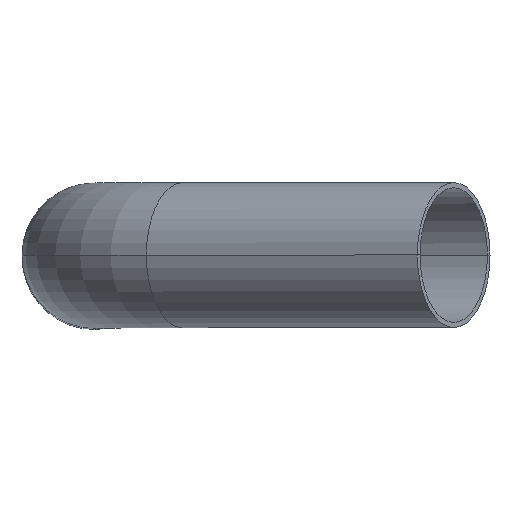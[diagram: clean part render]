
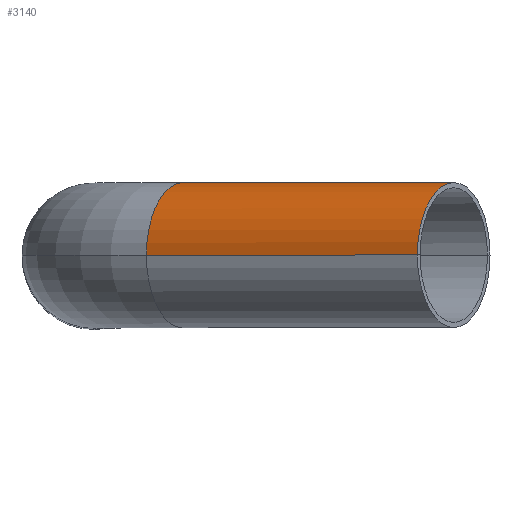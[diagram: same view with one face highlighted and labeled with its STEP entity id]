
A CAD part, top view. The second image highlights one B-rep face of the part: STEP entity #3140.
In plain terms, the highlighted cylindrical face has radius 21 mm (diameter 42 mm), a partial arc.
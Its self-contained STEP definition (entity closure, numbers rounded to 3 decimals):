
#1410=CARTESIAN_POINT('',(86.717,48.566,252.536));
#1420=VERTEX_POINT('',#1410);
#1510=CARTESIAN_POINT('',(65.717,48.566,288.909));
#1520=VERTEX_POINT('',#1510);
#1550=CARTESIAN_POINT('',(76.217,48.566,270.722));
#1560=DIRECTION('',(0.866,0.,0.5));
#1570=DIRECTION('',(0.5,0.,-0.866));
#1580=AXIS2_PLACEMENT_3D('',#1550,#1560,#1570);
#1590=CIRCLE('',#1580,21.);
#1670=EDGE_CURVE('',#1420,#1520,#1590,.T.);
#2400=CARTESIAN_POINT('',(154.64,48.566,316.));
#2410=DIRECTION('',(0.866,0.,0.5));
#2420=DIRECTION('',(0.5,0.,-0.866));
#2430=AXIS2_PLACEMENT_3D('',#2400,#2410,#2420);
#2440=CIRCLE('',#2430,21.);
#2450=CARTESIAN_POINT('',(165.14,48.566,297.813));
#2460=VERTEX_POINT('',#2450);
#2470=CARTESIAN_POINT('',(144.14,48.566,334.187));
#2480=VERTEX_POINT('',#2470);
#2490=EDGE_CURVE('',#2460,#2480,#2440,.T.);
#2860=CARTESIAN_POINT('',(76.217,48.566,270.722));
#2870=DIRECTION('',(0.866,0.,0.5));
#2880=DIRECTION('',(0.5,0.,-0.866));
#2890=AXIS2_PLACEMENT_3D('',#2860,#2870,#2880);
#2900=CYLINDRICAL_SURFACE('',#2890,21.);
#2910=CARTESIAN_POINT('',(86.717,48.566,252.536));
#2920=DIRECTION('',(0.866,0.,0.5));
#2930=VECTOR('',#2920,1.);
#2940=LINE('',#2910,#2930);
#2950=EDGE_CURVE('',#1420,#2460,#2940,.T.);
#2980=CARTESIAN_POINT('',(65.717,48.566,288.909));
#2990=DIRECTION('',(0.866,0.,0.5));
#3000=VECTOR('',#2990,1.);
#3010=LINE('',#2980,#3000);
#3020=EDGE_CURVE('',#1520,#2480,#3010,.T.);
#3080=ORIENTED_EDGE('',*,*,#1670,.T.);
#3090=ORIENTED_EDGE('',*,*,#2950,.F.);
#3100=ORIENTED_EDGE('',*,*,#2490,.F.);
#3110=ORIENTED_EDGE('',*,*,#3020,.T.);
#3120=EDGE_LOOP('',(#3110,#3100,#3090,#3080));
#3130=FACE_OUTER_BOUND('',#3120,.T.);
#3140=ADVANCED_FACE('',(#3130),#2900,.T.);
